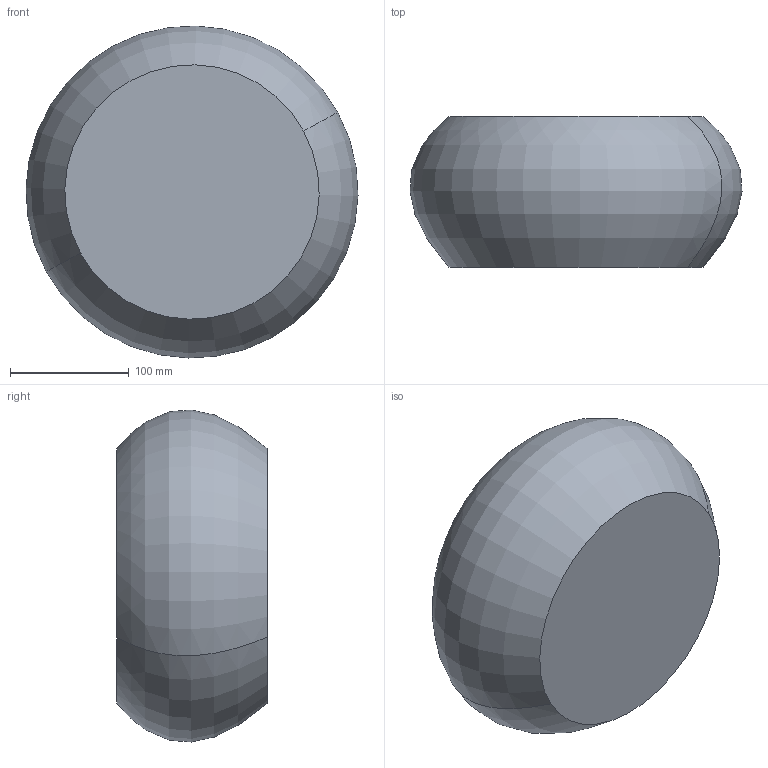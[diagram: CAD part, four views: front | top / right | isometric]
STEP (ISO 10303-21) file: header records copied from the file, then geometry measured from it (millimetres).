
FILE_DESCRIPTION(('CATIA V5 STEP Exchange'),'2;1');
FILE_NAME('C:\_Andres\UNIVERSIDAD\IQS\ASIGNATURAS\DAO\EXF\EXF-15161c\1original\Pañella_Caminero_Ej10-decora_v17.stp','2016-03-04T22:24:13+00:00',('none'),('none'),'CATIA Version 5 Release 20 SP 1 (IN-10)','CATIA V5 STEP AP203','none');
FILE_SCHEMA(('CONFIG_CONTROL_DESIGN'));
Length unit declared in the file: millimetre
Products named in the file (1): Pañella_Caminero_Ej10-decora_v17
Bounding box: 279.35 x 127 x 279.35 mm (x, y, z)
Volume: 6669498.8 mm3; surface area: 190070.9 mm2
Topology: 1 solids, 1 shells, 4 faces, 6 edges, 4 vertices
Faces by surface type: revolution 2, plane 2
Entity records: 166 total; most frequent: CARTESIAN_POINT 50, DIRECTION 12, ORIENTED_EDGE 12, AXIS2_PLACEMENT_3D 8, EDGE_CURVE 6, ADVANCED_FACE 4, B_SPLINE_CURVE_WITH_KNOTS 4, CC_DESIGN_PERSON_AND_ORGANIZATION_ASSIGNMENT 4
